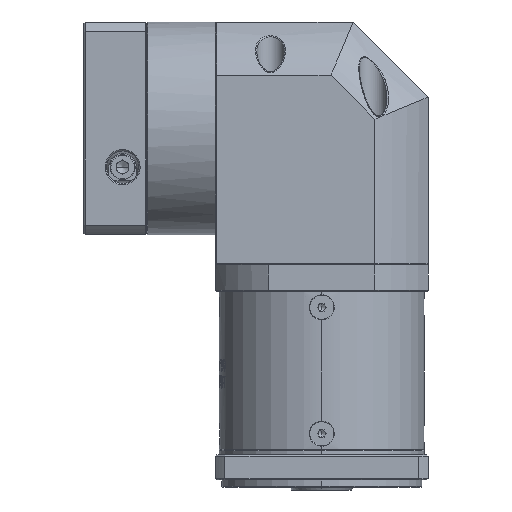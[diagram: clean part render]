
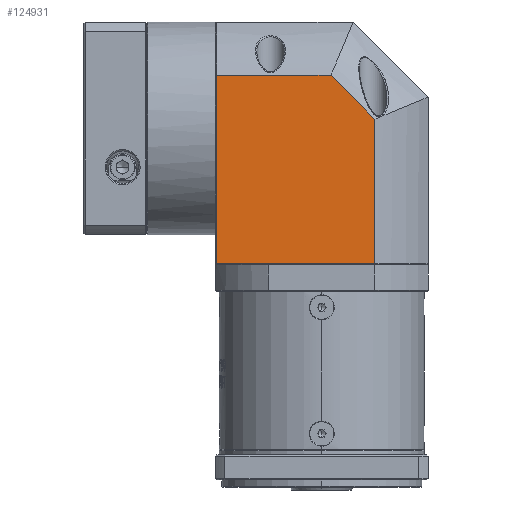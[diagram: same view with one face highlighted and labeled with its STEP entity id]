
A CAD part, left-side view. The second image highlights one B-rep face of the part: STEP entity #124931.
In plain terms, the highlighted planar face has unit normal (-1, 0, 0).
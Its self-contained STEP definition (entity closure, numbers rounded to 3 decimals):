
#5146 = ORIENTED_EDGE ( 'NONE', *, *, #21992, .F. ) ;
#7172 = LINE ( 'NONE', #17957, #108476 ) ;
#8768 = DIRECTION ( 'NONE',  ( 0., -1., 0. ) ) ;
#11287 = VECTOR ( 'NONE', #111228, 1000. ) ;
#13925 = VERTEX_POINT ( 'NONE', #132802 ) ;
#17957 = CARTESIAN_POINT ( 'NONE',  ( -65.528, 39.36, 230.213 ) ) ;
#20162 = PLANE ( 'NONE',  #105486 ) ;
#21992 = EDGE_CURVE ( 'NONE', #27873, #13925, #7172, .T. ) ;
#22425 = CARTESIAN_POINT ( 'NONE',  ( -65.528, -6.823, 230.213 ) ) ;
#27646 = CARTESIAN_POINT ( 'NONE',  ( -65.528, -24.353, 255. ) ) ;
#27873 = VERTEX_POINT ( 'NONE', #28995 ) ;
#28995 = CARTESIAN_POINT ( 'NONE',  ( -65.528, 38.86, 230.213 ) ) ;
#29386 = CARTESIAN_POINT ( 'NONE',  ( -65.528, 38.86, 251.5 ) ) ;
#36002 = EDGE_CURVE ( 'NONE', #133877, #27873, #66806, .T. ) ;
#40655 = FACE_OUTER_BOUND ( 'NONE', #48599, .T. ) ;
#46662 = VECTOR ( 'NONE', #125999, 1000. ) ;
#48599 = EDGE_LOOP ( 'NONE', ( #135078, #123842, #49233, #5146, #75694 ) ) ;
#48830 = VERTEX_POINT ( 'NONE', #61619 ) ;
#49233 = ORIENTED_EDGE ( 'NONE', *, *, #122233, .F. ) ;
#56719 = CARTESIAN_POINT ( 'NONE',  ( -65.528, 38.86, 155. ) ) ;
#61619 = CARTESIAN_POINT ( 'NONE',  ( -65.528, -24.353, 155. ) ) ;
#62183 = DIRECTION ( 'NONE',  ( 1., 0., 0. ) ) ;
#66485 = EDGE_CURVE ( 'NONE', #90083, #48830, #107787, .T. ) ;
#66806 = LINE ( 'NONE', #29386, #91231 ) ;
#71470 = DIRECTION ( 'NONE',  ( 0., 0., 1. ) ) ;
#74446 = LINE ( 'NONE', #22425, #46662 ) ;
#75694 = ORIENTED_EDGE ( 'NONE', *, *, #36002, .F. ) ;
#90083 = VERTEX_POINT ( 'NONE', #90530 ) ;
#90530 = CARTESIAN_POINT ( 'NONE',  ( -65.528, -24.353, 212.683 ) ) ;
#91231 = VECTOR ( 'NONE', #71470, 1000. ) ;
#92318 = DIRECTION ( 'NONE',  ( 0., 1., 0. ) ) ;
#93178 = CARTESIAN_POINT ( 'NONE',  ( -65.528, 39.36, 251.5 ) ) ;
#98637 = VECTOR ( 'NONE', #123774, 1000. ) ;
#105486 = AXIS2_PLACEMENT_3D ( 'NONE', #93178, #62183, #92318 ) ;
#107787 = LINE ( 'NONE', #27646, #11287 ) ;
#108476 = VECTOR ( 'NONE', #8768, 1000. ) ;
#111228 = DIRECTION ( 'NONE',  ( 0., 0., -1. ) ) ;
#113356 = CARTESIAN_POINT ( 'NONE',  ( -65.528, 39.36, 155. ) ) ;
#119142 = EDGE_CURVE ( 'NONE', #133877, #48830, #126318, .T. ) ;
#122233 = EDGE_CURVE ( 'NONE', #13925, #90083, #74446, .T. ) ;
#123774 = DIRECTION ( 'NONE',  ( 0., -1., 0. ) ) ;
#123842 = ORIENTED_EDGE ( 'NONE', *, *, #66485, .F. ) ;
#124931 = ADVANCED_FACE ( 'NONE', ( #40655 ), #20162, .F. ) ;
#125999 = DIRECTION ( 'NONE',  ( 0., -0.707, -0.707 ) ) ;
#126318 = LINE ( 'NONE', #113356, #98637 ) ;
#132802 = CARTESIAN_POINT ( 'NONE',  ( -65.528, -6.823, 230.213 ) ) ;
#133877 = VERTEX_POINT ( 'NONE', #56719 ) ;
#135078 = ORIENTED_EDGE ( 'NONE', *, *, #119142, .T. ) ;
